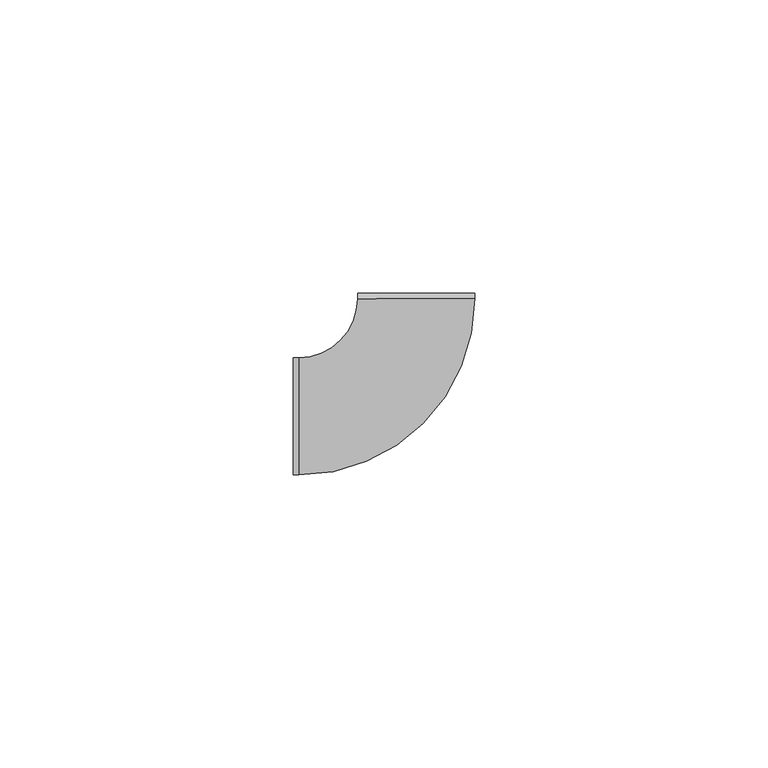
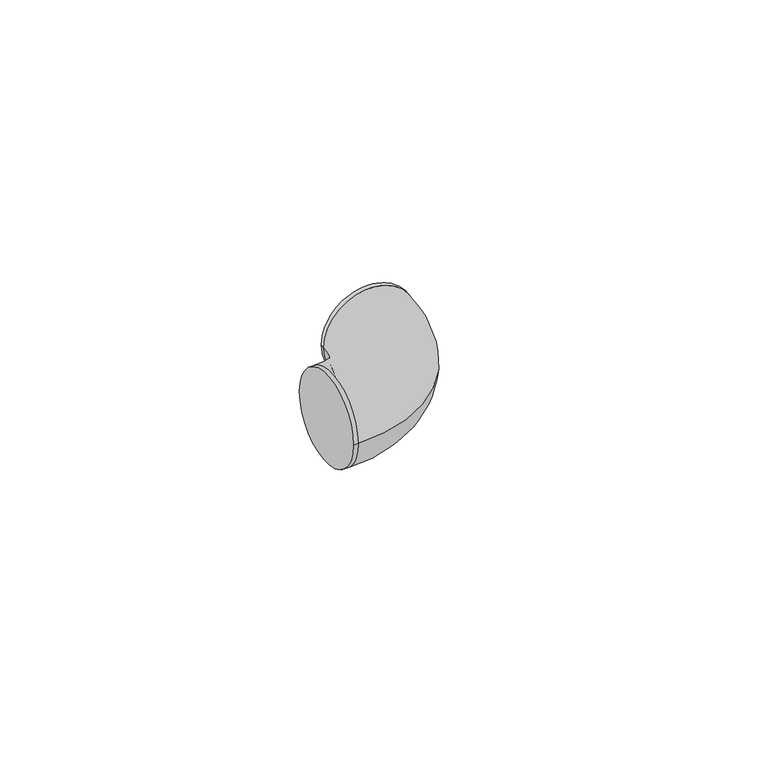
"""IFC4 building model written with IfcOpenShell, lengths in millimetres: cable carrier fitting geometry, ADSK_Поворот_Минимальный размер : Неспецифицируемый."""

from ifc_helpers import new_model, si_unit, point, frame, origin, place, context, project, spatial, circle_curve, ellipse_curve, trimmed, source, transform, mapped, element, save
from ifc_brep_helpers import plane_surface, cylinder_surface, revolved_surface, advanced_brep


def cable_carrier_fitting_4b51b220(model_context):
    return source(origin(), model_context, "Body", "AdvancedBrep", [
        advanced_brep(
        [(-21.0072554, -10.0, 0.0), (-21.0072554, 10.0, 0.0), (-20.0072554, -10.0, 0.0), (-20.0072554, 10.0, 0.0), (-10.0072561, 20.003627, 0.0), (9.9927426, 20.0108811, 0.0), (9.9923799, 21.0108811, 0.0), (-10.0076188, 21.003627, 0.0)],
        [
            (0, 1, circle_curve(frame((-21.0072554, 0.0, 0.0), z_axis=(-1.0, -4.92260399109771e-12, 0.0), x_axis=(-4.92260399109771e-12, 1.0, 0.0)), 10.0)),
            (1, 0, circle_curve(frame((-21.0072554, 0.0, 0.0), z_axis=(-1.0, -4.92260399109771e-12, 0.0), x_axis=(-4.92260399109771e-12, 1.0, 0.0)), 10.0)),
            (0, 2),
            (2, 3, circle_curve(frame((-20.0072554, 0.0, 0.0), z_axis=(-1.0, -4.92260399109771e-12, 0.0), x_axis=(-4.92260399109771e-12, 1.0, 0.0)), 10.0)),
            (3, 1),
            (3, 2, circle_curve(frame((-20.0072554, 0.0, 0.0), z_axis=(-1.0, -4.92260399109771e-12, 0.0), x_axis=(-4.92260399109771e-12, 1.0, 0.0)), 10.0)),
            (4, 3, circle_curve(frame((-20.0072554, 20.0, 0.0), z_axis=(0.0, 0.0, -1.0), x_axis=(0.0, -1.0, 0.0)), 10.0)),
            (2, 5, circle_curve(frame((-20.0072554, 20.0, 0.0), z_axis=(0.0, 0.0, 1.0), x_axis=(0.0, -1.0, 0.0)), 30.0)),
            (5, 4, circle_curve(frame((-0.0072567, 20.0072541, 0.0), z_axis=(0.0003627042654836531, -0.9999999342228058, 0.0), x_axis=(-0.9999999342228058, -0.0003627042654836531, 0.0)), 10.0)),
            (4, 5, circle_curve(frame((-0.0072567, 20.0072541, 0.0), z_axis=(0.0003627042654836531, -0.9999999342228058, 0.0), x_axis=(-0.9999999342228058, -0.0003627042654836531, 0.0)), 10.0)),
            (6, 7, circle_curve(frame((-0.0076194, 21.007254, 0.0), z_axis=(-0.000362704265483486, 0.9999999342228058, 0.0), x_axis=(-0.9999999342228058, -0.000362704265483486, 0.0)), 10.0)),
            (7, 6, circle_curve(frame((-0.0076194, 21.007254, 0.0), z_axis=(-0.000362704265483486, 0.9999999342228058, 0.0), x_axis=(-0.9999999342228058, -0.000362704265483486, 0.0)), 10.0)),
            (5, 6),
            (7, 4),
        ],
        [
            plane_surface(frame((-21.0072554, 0.0, 0.0), z_axis=(-1.0, -4.92260399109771e-12, 0.0), x_axis=(0.0, 0.0, 1.0))),
            cylinder_surface(frame((-21.0072554, 0.0, 0.0), z_axis=(-1.0, -4.92260399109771e-12, 0.0), x_axis=(-4.92260399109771e-12, 1.0, 0.0)), 10.0),
            revolved_surface(trimmed(ellipse_curve(frame((-20.0072554, 0.0, 0.0), z_axis=(-1.0, 0.0, 0.0), x_axis=(0.0, 1.0, 0.0)), 10.0, 10.0), [point((-20.0072554, -10.0, 0.0))], [point((-20.0072554, 10.0, 0.0))], True, "CARTESIAN"), (-20.0072554, 20.0, 0.0), (0.0, 0.0, 1.0)),
            revolved_surface(trimmed(ellipse_curve(frame((-20.0072554, 0.0, 0.0), z_axis=(-1.0, 0.0, 0.0), x_axis=(0.0, 1.0, 0.0)), 10.0, 10.0), [point((-20.0072554, 10.0, 0.0))], [point((-20.0072554, -10.0, 0.0))], True, "CARTESIAN"), (-20.0072554, 20.0, 0.0), (0.0, 0.0, 1.0)),
            plane_surface(frame((-0.0076194, 21.007254, 0.0), z_axis=(-0.000362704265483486, 0.9999999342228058, 0.0), x_axis=(0.0, 0.0, 1.0))),
            cylinder_surface(frame((-0.0072567, 20.0072541, 0.0), z_axis=(0.000362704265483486, -0.9999999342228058, 0.0), x_axis=(-0.9999999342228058, -0.000362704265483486, 0.0)), 10.0),
        ],
        [
            (0, [[1, 2]]),
            (1, [[-1, 3, 4, 5]]),
            (1, [[-2, -5, 6, -3]]),
            (2, [[7, -4, 8, 9]]),
            (3, [[-8, -6, -7, 10]]),
            (4, [[11, 12]]),
            (5, [[-9, 13, -12, 14]]),
            (5, [[-10, -14, -11, -13]]),
        ],
    ),
    ])


if __name__ == "__main__":
    model = new_model("IFC4")
    model_context = context("Model", 3, world=origin())
    ifc_project = project(units=[si_unit("LENGTHUNIT", "METRE", prefix="MILLI")], contexts=[model_context])
    site = spatial("IfcSite", under=ifc_project)
    building = spatial("IfcBuilding", under=site)
    placement = place(None, origin())
    cable_carrier_fitting_shape = cable_carrier_fitting_4b51b220(model_context)
    element("IfcCableCarrierFitting", 1, ObjectType="ADSK_Поворот_Минимальный размер : Неспецифицируемый", at=placement, inside=building, context=model_context, shape_type="MappedRepresentation", body=[
        mapped(cable_carrier_fitting_shape, transform((0.0, 0.0, 0.0), x_axis=(1.0, 0.0, 0.0), y_axis=(0.0, 1.0, 0.0), z_axis=(0.0, 0.0, 1.0))),
    ])
    save(model, "model.ifc")
